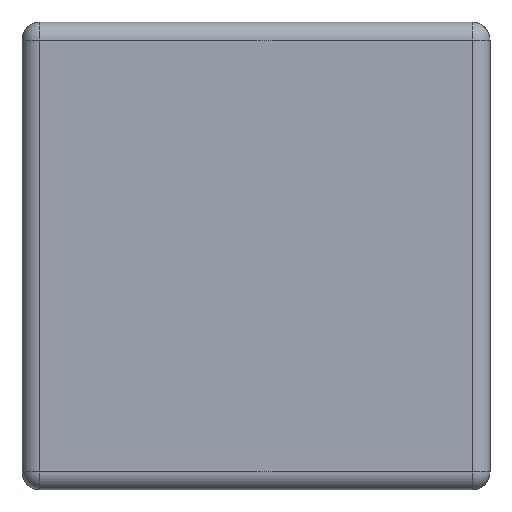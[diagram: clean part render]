
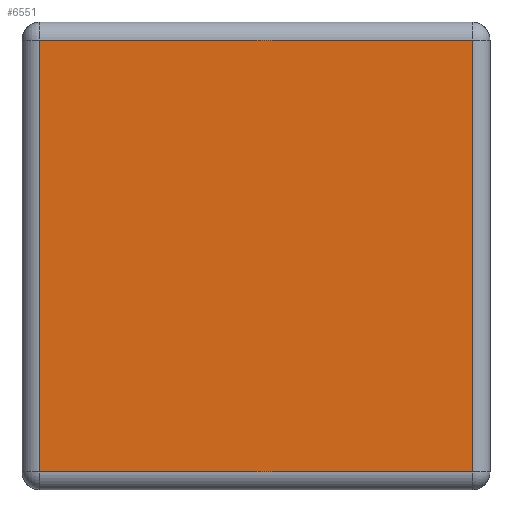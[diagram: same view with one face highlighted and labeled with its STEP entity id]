
A CAD part, left-side view. The second image highlights one B-rep face of the part: STEP entity #6551.
In plain terms, the highlighted planar face has unit normal (-1, 0, 0).
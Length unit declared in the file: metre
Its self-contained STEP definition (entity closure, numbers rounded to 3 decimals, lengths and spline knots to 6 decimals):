
#533=LINE('',#12099,#1051);
#537=LINE('',#12120,#1055);
#540=LINE('',#12127,#1058);
#547=LINE('',#12147,#1065);
#1051=VECTOR('',#9519,1.);
#1055=VECTOR('',#9545,1.);
#1058=VECTOR('',#9552,1.);
#1065=VECTOR('',#9579,1.);
#2928=ORIENTED_EDGE('',*,*,#4185,.T.);
#2929=ORIENTED_EDGE('',*,*,#4170,.T.);
#2930=ORIENTED_EDGE('',*,*,#4181,.T.);
#2931=ORIENTED_EDGE('',*,*,#4197,.T.);
#4170=EDGE_CURVE('',#4824,#4827,#533,.T.);
#4181=EDGE_CURVE('',#4827,#4833,#537,.T.);
#4185=EDGE_CURVE('',#4834,#4824,#540,.T.);
#4197=EDGE_CURVE('',#4833,#4834,#547,.T.);
#4824=VERTEX_POINT('',#12093);
#4827=VERTEX_POINT('',#12098);
#4833=VERTEX_POINT('',#12119);
#4834=VERTEX_POINT('',#12124);
#5489=EDGE_LOOP('',(#2928,#2929,#2930,#2931));
#5878=FACE_BOUND('',#5489,.T.);
#6105=PLANE('',#7766);
#6551=ADVANCED_FACE('',(#5878),#6105,.T.);
#7766=AXIS2_PLACEMENT_3D('',#12152,#9586,#9587);
#9519=DIRECTION('',(0.,0.,-1.));
#9545=DIRECTION('',(0.,-1.,0.));
#9552=DIRECTION('',(0.,1.,0.));
#9579=DIRECTION('',(0.,0.,1.));
#9586=DIRECTION('',(-1.,0.,0.));
#9587=DIRECTION('',(0.,0.,-1.));
#12093=CARTESIAN_POINT('',(-0.114072,-0.034334,0.01075));
#12098=CARTESIAN_POINT('',(-0.114072,-0.034334,0.00955));
#12099=CARTESIAN_POINT('',(-0.114072,-0.034334,0.01015));
#12119=CARTESIAN_POINT('',(-0.114072,-0.035534,0.00955));
#12120=CARTESIAN_POINT('',(-0.114072,-0.034934,0.00955));
#12124=CARTESIAN_POINT('',(-0.114072,-0.035534,0.01075));
#12127=CARTESIAN_POINT('',(-0.114072,-0.034934,0.01075));
#12147=CARTESIAN_POINT('',(-0.114072,-0.035534,0.01015));
#12152=CARTESIAN_POINT('',(-0.114072,-0.034934,0.01015));
